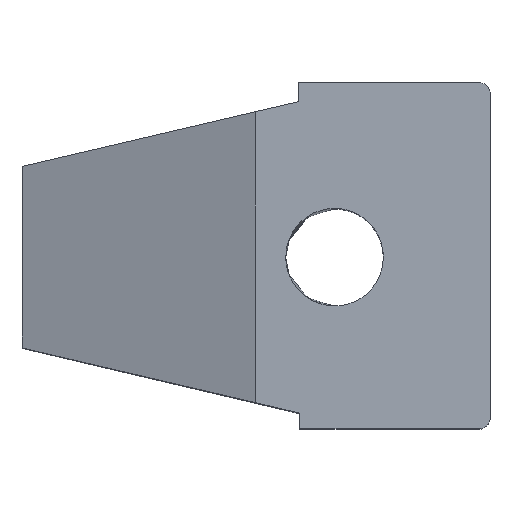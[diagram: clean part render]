
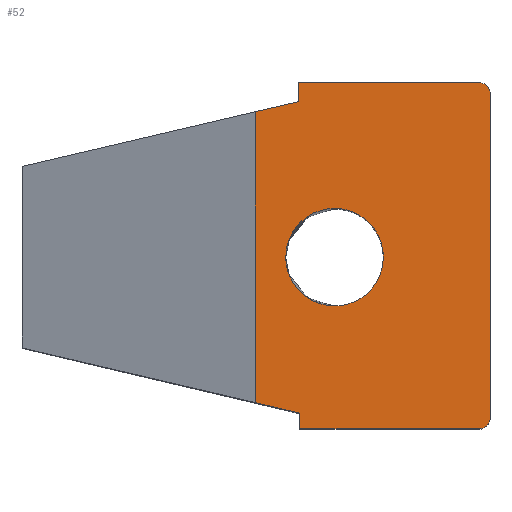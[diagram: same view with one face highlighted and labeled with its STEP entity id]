
A CAD part, top view. The second image highlights one B-rep face of the part: STEP entity #52.
In plain terms, the highlighted planar face has unit normal (0, 0, 1).
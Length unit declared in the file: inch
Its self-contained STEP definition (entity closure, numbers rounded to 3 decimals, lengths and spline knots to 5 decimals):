
#52=ADVANCED_FACE('',(#124,#125),#126,.T.);
#124=FACE_BOUND('',#215,.T.);
#125=FACE_OUTER_BOUND('',#216,.T.);
#126=PLANE('',#217);
#215=EDGE_LOOP('',(#361,#362,#363,#364));
#216=EDGE_LOOP('',(#365,#366,#367,#368,#369,#370,#371,#372,#373,#374));
#217=AXIS2_PLACEMENT_3D('',#375,#376,#377);
#361=ORIENTED_EDGE('',*,*,#605,.T.);
#362=ORIENTED_EDGE('',*,*,#606,.T.);
#363=ORIENTED_EDGE('',*,*,#607,.T.);
#364=ORIENTED_EDGE('',*,*,#608,.T.);
#365=ORIENTED_EDGE('',*,*,#609,.T.);
#366=ORIENTED_EDGE('',*,*,#610,.T.);
#367=ORIENTED_EDGE('',*,*,#611,.T.);
#368=ORIENTED_EDGE('',*,*,#612,.T.);
#369=ORIENTED_EDGE('',*,*,#613,.T.);
#370=ORIENTED_EDGE('',*,*,#614,.T.);
#371=ORIENTED_EDGE('',*,*,#615,.T.);
#372=ORIENTED_EDGE('',*,*,#616,.T.);
#373=ORIENTED_EDGE('',*,*,#617,.T.);
#374=ORIENTED_EDGE('',*,*,#618,.F.);
#375=CARTESIAN_POINT('',(0.597,2.90787,3.25));
#376=DIRECTION('',(0.0,0.0,1.0));
#377=DIRECTION('',(-1.0,0.0,-0.0));
#605=EDGE_CURVE('',#714,#715,#716,.T.);
#606=EDGE_CURVE('',#715,#717,#718,.T.);
#607=EDGE_CURVE('',#717,#719,#720,.T.);
#608=EDGE_CURVE('',#719,#714,#721,.T.);
#609=EDGE_CURVE('',#722,#723,#724,.T.);
#610=EDGE_CURVE('',#723,#725,#726,.T.);
#611=EDGE_CURVE('',#725,#727,#728,.T.);
#612=EDGE_CURVE('',#727,#729,#730,.T.);
#613=EDGE_CURVE('',#729,#731,#732,.T.);
#614=EDGE_CURVE('',#731,#733,#734,.T.);
#615=EDGE_CURVE('',#733,#735,#736,.T.);
#616=EDGE_CURVE('',#735,#737,#738,.T.);
#617=EDGE_CURVE('',#737,#739,#740,.T.);
#618=EDGE_CURVE('',#722,#739,#741,.T.);
#714=VERTEX_POINT('',#877);
#715=VERTEX_POINT('',#878);
#716=B_SPLINE_CURVE_WITH_KNOTS('',3,(#879,#880,#881,#882),.UNSPECIFIED.,.F.,.F.,(4,4),(-1.0,-0.0),.UNSPECIFIED.);
#717=VERTEX_POINT('',#883);
#718=B_SPLINE_CURVE_WITH_KNOTS('',3,(#884,#885,#886,#887),.UNSPECIFIED.,.F.,.F.,(4,4),(-1.0,-0.0),.UNSPECIFIED.);
#719=VERTEX_POINT('',#888);
#720=B_SPLINE_CURVE_WITH_KNOTS('',3,(#889,#890,#891,#892),.UNSPECIFIED.,.F.,.F.,(4,4),(-1.0,-0.0),.UNSPECIFIED.);
#721=B_SPLINE_CURVE_WITH_KNOTS('',3,(#893,#894,#895,#896),.UNSPECIFIED.,.F.,.F.,(4,4),(-1.0,-0.0),.UNSPECIFIED.);
#722=VERTEX_POINT('',#897);
#723=VERTEX_POINT('',#898);
#724=B_SPLINE_CURVE_WITH_KNOTS('',3,(#899,#900,#901,#902),.UNSPECIFIED.,.F.,.F.,(4,4),(-1.0,-0.0),.UNSPECIFIED.);
#725=VERTEX_POINT('',#903);
#726=LINE('',#904,#905);
#727=VERTEX_POINT('',#906);
#728=LINE('',#907,#908);
#729=VERTEX_POINT('',#909);
#730=LINE('',#910,#911);
#731=VERTEX_POINT('',#912);
#732=LINE('',#913,#914);
#733=VERTEX_POINT('',#915);
#734=LINE('',#916,#917);
#735=VERTEX_POINT('',#918);
#736=LINE('',#919,#920);
#737=VERTEX_POINT('',#921);
#738=B_SPLINE_CURVE_WITH_KNOTS('',2,(#922,#923,#924),.UNSPECIFIED.,.F.,.F.,(3,3),(-1.0,-0.0),.UNSPECIFIED.);
#739=VERTEX_POINT('',#925);
#740=B_SPLINE_CURVE_WITH_KNOTS('',3,(#926,#927,#928,#929),.UNSPECIFIED.,.F.,.F.,(4,4),(-1.0,-0.0),.UNSPECIFIED.);
#741=LINE('',#930,#931);
#877=CARTESIAN_POINT('',(0.28438,1.80699,3.25));
#878=CARTESIAN_POINT('',(0.68438,1.407,3.25));
#879=CARTESIAN_POINT('',(0.28438,1.80699,3.25));
#880=CARTESIAN_POINT('',(0.5053,1.80699,3.25));
#881=CARTESIAN_POINT('',(0.68438,1.62791,3.25));
#882=CARTESIAN_POINT('',(0.68438,1.407,3.25));
#883=CARTESIAN_POINT('',(0.28438,1.007,3.25));
#884=CARTESIAN_POINT('',(0.68438,1.407,3.25));
#885=CARTESIAN_POINT('',(0.68438,1.18608,3.25));
#886=CARTESIAN_POINT('',(0.5053,1.007,3.25));
#887=CARTESIAN_POINT('',(0.28438,1.007,3.25));
#888=CARTESIAN_POINT('',(-0.11561,1.407,3.25));
#889=CARTESIAN_POINT('',(0.28438,1.007,3.25));
#890=CARTESIAN_POINT('',(0.06348,1.007,3.25));
#891=CARTESIAN_POINT('',(-0.11561,1.18608,3.25));
#892=CARTESIAN_POINT('',(-0.11561,1.407,3.25));
#893=CARTESIAN_POINT('',(-0.11561,1.407,3.25));
#894=CARTESIAN_POINT('',(-0.11561,1.62791,3.25));
#895=CARTESIAN_POINT('',(0.06348,1.80699,3.25));
#896=CARTESIAN_POINT('',(0.28438,1.80699,3.25));
#897=CARTESIAN_POINT('',(1.55901,2.76024,3.25));
#898=CARTESIAN_POINT('',(1.46559,2.83888,3.25));
#899=CARTESIAN_POINT('',(1.56011,2.74581,3.25));
#900=CARTESIAN_POINT('',(1.56011,2.79805,3.25));
#901=CARTESIAN_POINT('',(1.51782,2.83888,3.25));
#902=CARTESIAN_POINT('',(1.46559,2.83888,3.25));
#903=CARTESIAN_POINT('',(-0.01226,2.83888,3.25));
#904=CARTESIAN_POINT('',(0.66183,2.83888,3.25));
#905=VECTOR('',#1186,1.0);
#906=CARTESIAN_POINT('',(-0.01226,2.68222,3.25));
#907=CARTESIAN_POINT('',(-0.01226,2.83421,3.25));
#908=VECTOR('',#1187,1.0);
#909=CARTESIAN_POINT('',(-0.36502,2.59977,3.25));
#910=CARTESIAN_POINT('',(-0.26485,2.62318,3.25));
#911=VECTOR('',#1188,1.0);
#912=CARTESIAN_POINT('',(-0.36502,0.21422,3.25));
#913=CARTESIAN_POINT('',(-0.36502,2.90787,3.25));
#914=VECTOR('',#1189,1.0);
#915=CARTESIAN_POINT('',(0.0,0.12857,3.25));
#916=CARTESIAN_POINT('',(-0.59566,0.26834,3.25));
#917=VECTOR('',#1190,1.0);
#918=CARTESIAN_POINT('',(0.0,0.0,3.25));
#919=CARTESIAN_POINT('',(0.0,1.48608,3.25));
#920=VECTOR('',#1191,1.0);
#921=CARTESIAN_POINT('',(1.46559,0.0,3.25));
#922=CARTESIAN_POINT('',(0.0,0.0,3.25));
#923=CARTESIAN_POINT('',(1.40652,0.00046,3.25));
#924=CARTESIAN_POINT('',(1.46559,0.0,3.25));
#925=CARTESIAN_POINT('',(1.55901,0.07866,3.25));
#926=CARTESIAN_POINT('',(1.46559,0.0,3.25));
#927=CARTESIAN_POINT('',(1.51782,0.0,3.25));
#928=CARTESIAN_POINT('',(1.56011,0.04087,3.25));
#929=CARTESIAN_POINT('',(1.56011,0.09309,3.25));
#930=CARTESIAN_POINT('',(1.55901,2.90787,3.25));
#931=VECTOR('',#1192,1.0);
#1186=DIRECTION('',(-1.0,0.0,0.0));
#1187=DIRECTION('',(0.0,-1.0,0.0));
#1188=DIRECTION('',(-0.974,-0.228,0.0));
#1189=DIRECTION('',(0.0,-1.0,0.0));
#1190=DIRECTION('',(0.974,-0.228,0.0));
#1191=DIRECTION('',(0.0,-1.0,0.0));
#1192=DIRECTION('',(0.0,-1.0,0.0));
